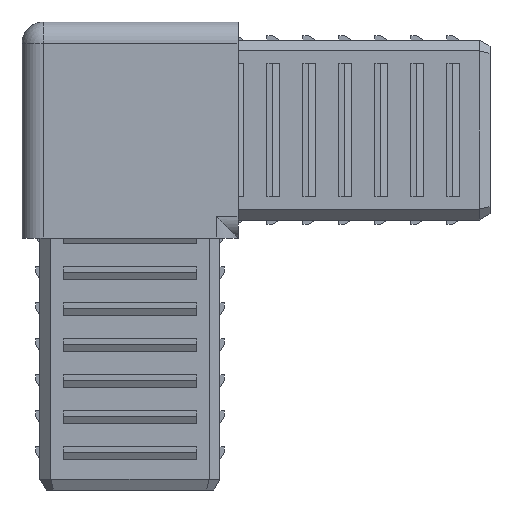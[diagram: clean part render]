
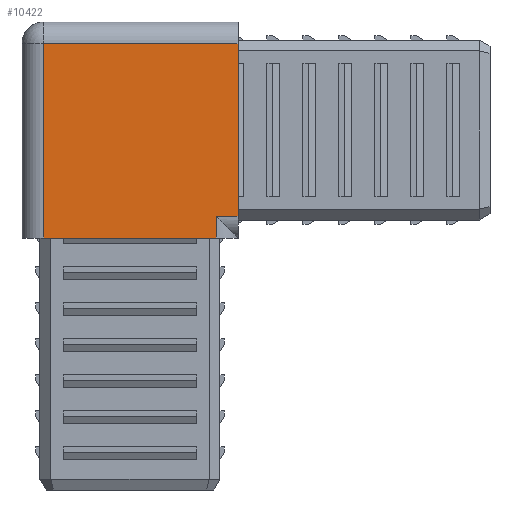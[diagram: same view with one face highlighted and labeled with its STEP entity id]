
A CAD part, front view. The second image highlights one B-rep face of the part: STEP entity #10422.
In plain terms, the highlighted planar face has unit normal (0, -1, 0).
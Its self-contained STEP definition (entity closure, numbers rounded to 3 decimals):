
#219 = CARTESIAN_POINT ( 'NONE',  ( -15., -15., 12. ) ) ;
#222 = DIRECTION ( 'NONE',  ( 1., 0., 0. ) ) ;
#619 = DIRECTION ( 'NONE',  ( 0., 0., 1. ) ) ;
#1148 = VERTEX_POINT ( 'NONE', #7852 ) ;
#1433 = DIRECTION ( 'NONE',  ( -1., 0., 0. ) ) ;
#1596 = VECTOR ( 'NONE', #12105, 1000. ) ;
#1617 = VECTOR ( 'NONE', #1433, 1000. ) ;
#1755 = DIRECTION ( 'NONE',  ( 0., 1., 0. ) ) ;
#2024 = LINE ( 'NONE', #15300, #10763 ) ;
#2365 = CARTESIAN_POINT ( 'NONE',  ( -12., -15., -15. ) ) ;
#2474 = VERTEX_POINT ( 'NONE', #10878 ) ;
#2487 = EDGE_CURVE ( 'NONE', #1148, #10211, #10725, .T. ) ;
#2539 = EDGE_LOOP ( 'NONE', ( #3946, #12449, #10676, #4639, #14881, #13081 ) ) ;
#2647 = CARTESIAN_POINT ( 'NONE',  ( 15., -15., 15. ) ) ;
#2720 = CARTESIAN_POINT ( 'NONE',  ( -15., -15., -15. ) ) ;
#3946 = ORIENTED_EDGE ( 'NONE', *, *, #13020, .T. ) ;
#4451 = EDGE_CURVE ( 'NONE', #1148, #5486, #14055, .T. ) ;
#4613 = DIRECTION ( 'NONE',  ( 0., 0., -1. ) ) ;
#4639 = ORIENTED_EDGE ( 'NONE', *, *, #13641, .T. ) ;
#5371 = EDGE_CURVE ( 'NONE', #14249, #2474, #14201, .T. ) ;
#5486 = VERTEX_POINT ( 'NONE', #12497 ) ;
#5676 = VERTEX_POINT ( 'NONE', #12858 ) ;
#5953 = FACE_OUTER_BOUND ( 'NONE', #2539, .T. ) ;
#6045 = LINE ( 'NONE', #6969, #10706 ) ;
#6607 = VECTOR ( 'NONE', #222, 1000. ) ;
#6969 = CARTESIAN_POINT ( 'NONE',  ( -12., -15., 15. ) ) ;
#7792 = PLANE ( 'NONE',  #10186 ) ;
#7852 = CARTESIAN_POINT ( 'NONE',  ( 15., -15., 12. ) ) ;
#8237 = CARTESIAN_POINT ( 'NONE',  ( 12., -15., -12. ) ) ;
#9412 = LINE ( 'NONE', #8237, #13856 ) ;
#9478 = CARTESIAN_POINT ( 'NONE',  ( -12., -15., 12. ) ) ;
#10186 = AXIS2_PLACEMENT_3D ( 'NONE', #14852, #1755, #619 ) ;
#10211 = VERTEX_POINT ( 'NONE', #9478 ) ;
#10422 = ADVANCED_FACE ( 'NONE', ( #5953 ), #7792, .F. ) ;
#10676 = ORIENTED_EDGE ( 'NONE', *, *, #2487, .T. ) ;
#10706 = VECTOR ( 'NONE', #4613, 1000. ) ;
#10725 = LINE ( 'NONE', #219, #1617 ) ;
#10763 = VECTOR ( 'NONE', #13006, 1000. ) ;
#10878 = CARTESIAN_POINT ( 'NONE',  ( 12., -15., -15. ) ) ;
#11352 = EDGE_CURVE ( 'NONE', #5676, #2474, #2024, .T. ) ;
#12105 = DIRECTION ( 'NONE',  ( 0., 0., -1. ) ) ;
#12449 = ORIENTED_EDGE ( 'NONE', *, *, #4451, .F. ) ;
#12497 = CARTESIAN_POINT ( 'NONE',  ( 15., -15., -12. ) ) ;
#12858 = CARTESIAN_POINT ( 'NONE',  ( 12., -15., -12. ) ) ;
#13006 = DIRECTION ( 'NONE',  ( 0., 0., -1. ) ) ;
#13020 = EDGE_CURVE ( 'NONE', #5676, #5486, #9412, .T. ) ;
#13081 = ORIENTED_EDGE ( 'NONE', *, *, #11352, .F. ) ;
#13641 = EDGE_CURVE ( 'NONE', #10211, #14249, #6045, .T. ) ;
#13856 = VECTOR ( 'NONE', #14198, 1000. ) ;
#14055 = LINE ( 'NONE', #2647, #1596 ) ;
#14198 = DIRECTION ( 'NONE',  ( 1., 0., 0. ) ) ;
#14201 = LINE ( 'NONE', #2720, #6607 ) ;
#14249 = VERTEX_POINT ( 'NONE', #2365 ) ;
#14852 = CARTESIAN_POINT ( 'NONE',  ( -15., -15., 15. ) ) ;
#14881 = ORIENTED_EDGE ( 'NONE', *, *, #5371, .T. ) ;
#15300 = CARTESIAN_POINT ( 'NONE',  ( 12., -15., -15. ) ) ;
